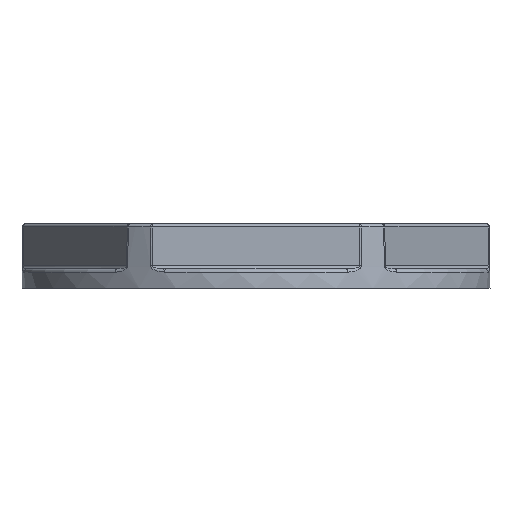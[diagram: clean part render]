
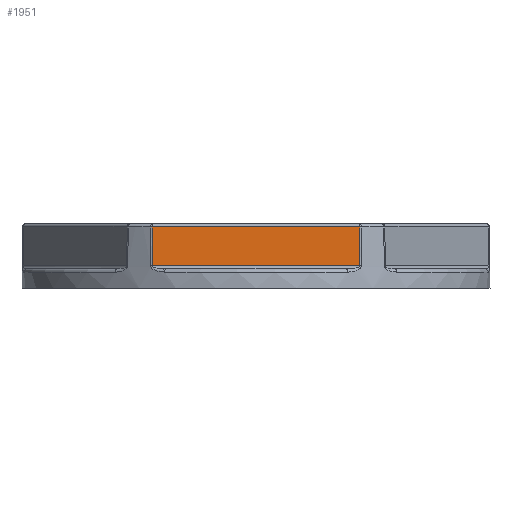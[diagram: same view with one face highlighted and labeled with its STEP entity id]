
A CAD part, front view. The second image highlights one B-rep face of the part: STEP entity #1951.
In plain terms, the highlighted planar face has unit normal (0, -1, 0.009).
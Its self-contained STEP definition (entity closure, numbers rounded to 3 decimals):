
#42 = ORIENTED_EDGE ( 'NONE', *, *, #5013, .T. ) ;
#161 = DIRECTION ( 'NONE',  ( 0., -1., 0.009 ) ) ;
#486 = CARTESIAN_POINT ( 'NONE',  ( 6.446, -12.967, 3.802 ) ) ;
#549 = EDGE_LOOP ( 'NONE', ( #4263, #3866, #3480, #42 ) ) ;
#642 = VERTEX_POINT ( 'NONE', #5103 ) ;
#735 = AXIS2_PLACEMENT_3D ( 'NONE', #3591, #161, #1443 ) ;
#758 = CARTESIAN_POINT ( 'NONE',  ( 6.446, -12.967, 3.802 ) ) ;
#818 = VECTOR ( 'NONE', #3509, 1000. ) ;
#845 = B_SPLINE_CURVE_WITH_KNOTS ( 'NONE', 3,
 ( #1272, #4703, #916, #4787, #1298, #5554, #966 ),
 .UNSPECIFIED., .F., .F.,
 ( 4, 3, 4 ),
 ( 0., 0.001, 0.002 ),
 .UNSPECIFIED. ) ;
#916 = CARTESIAN_POINT ( 'NONE',  ( -6.447, -12.974, 3.001 ) ) ;
#966 = CARTESIAN_POINT ( 'NONE',  ( -6.451, -12.988, 1.398 ) ) ;
#1152 = CARTESIAN_POINT ( 'NONE',  ( 6.451, -12.988, 1.398 ) ) ;
#1272 = CARTESIAN_POINT ( 'NONE',  ( -6.446, -12.967, 3.802 ) ) ;
#1298 = CARTESIAN_POINT ( 'NONE',  ( -6.449, -12.981, 2.199 ) ) ;
#1414 = LINE ( 'NONE', #3200, #1428 ) ;
#1428 = VECTOR ( 'NONE', #3147, 1000. ) ;
#1443 = DIRECTION ( 'NONE',  ( 0., -0.009, -1. ) ) ;
#1588 = CARTESIAN_POINT ( 'NONE',  ( 6.449, -12.981, 2.199 ) ) ;
#1715 = VERTEX_POINT ( 'NONE', #4620 ) ;
#1807 = CARTESIAN_POINT ( 'NONE',  ( -6.493, -12.967, 3.802 ) ) ;
#1862 = FACE_OUTER_BOUND ( 'NONE', #549, .T. ) ;
#1951 = ADVANCED_FACE ( 'NONE', ( #1862 ), #3562, .T. ) ;
#2673 = LINE ( 'NONE', #1807, #818 ) ;
#2877 = CARTESIAN_POINT ( 'NONE',  ( 6.447, -12.974, 3.001 ) ) ;
#3058 = VERTEX_POINT ( 'NONE', #486 ) ;
#3147 = DIRECTION ( 'NONE',  ( 1., 0., 0. ) ) ;
#3200 = CARTESIAN_POINT ( 'NONE',  ( 6.499, -12.988, 1.398 ) ) ;
#3480 = ORIENTED_EDGE ( 'NONE', *, *, #5218, .T. ) ;
#3509 = DIRECTION ( 'NONE',  ( -1., 0., 0. ) ) ;
#3562 = PLANE ( 'NONE',  #735 ) ;
#3591 = CARTESIAN_POINT ( 'NONE',  ( -7.506, -13., 0. ) ) ;
#3796 = EDGE_CURVE ( 'NONE', #3058, #1715, #2673, .T. ) ;
#3814 = VERTEX_POINT ( 'NONE', #1152 ) ;
#3866 = ORIENTED_EDGE ( 'NONE', *, *, #5102, .T. ) ;
#4140 = CARTESIAN_POINT ( 'NONE',  ( 6.45, -12.984, 1.799 ) ) ;
#4263 = ORIENTED_EDGE ( 'NONE', *, *, #3796, .T. ) ;
#4598 = CARTESIAN_POINT ( 'NONE',  ( 6.447, -12.97, 3.401 ) ) ;
#4620 = CARTESIAN_POINT ( 'NONE',  ( -6.446, -12.967, 3.802 ) ) ;
#4660 = B_SPLINE_CURVE_WITH_KNOTS ( 'NONE', 3,
 ( #4993, #4140, #1588, #5017, #2877, #4598, #758 ),
 .UNSPECIFIED., .F., .F.,
 ( 4, 3, 4 ),
 ( 0., 0.001, 0.002 ),
 .UNSPECIFIED. ) ;
#4703 = CARTESIAN_POINT ( 'NONE',  ( -6.447, -12.97, 3.401 ) ) ;
#4787 = CARTESIAN_POINT ( 'NONE',  ( -6.448, -12.977, 2.6 ) ) ;
#4993 = CARTESIAN_POINT ( 'NONE',  ( 6.451, -12.988, 1.398 ) ) ;
#5013 = EDGE_CURVE ( 'NONE', #3814, #3058, #4660, .T. ) ;
#5017 = CARTESIAN_POINT ( 'NONE',  ( 6.448, -12.977, 2.6 ) ) ;
#5102 = EDGE_CURVE ( 'NONE', #1715, #642, #845, .T. ) ;
#5103 = CARTESIAN_POINT ( 'NONE',  ( -6.451, -12.988, 1.398 ) ) ;
#5218 = EDGE_CURVE ( 'NONE', #642, #3814, #1414, .T. ) ;
#5554 = CARTESIAN_POINT ( 'NONE',  ( -6.45, -12.984, 1.799 ) ) ;
